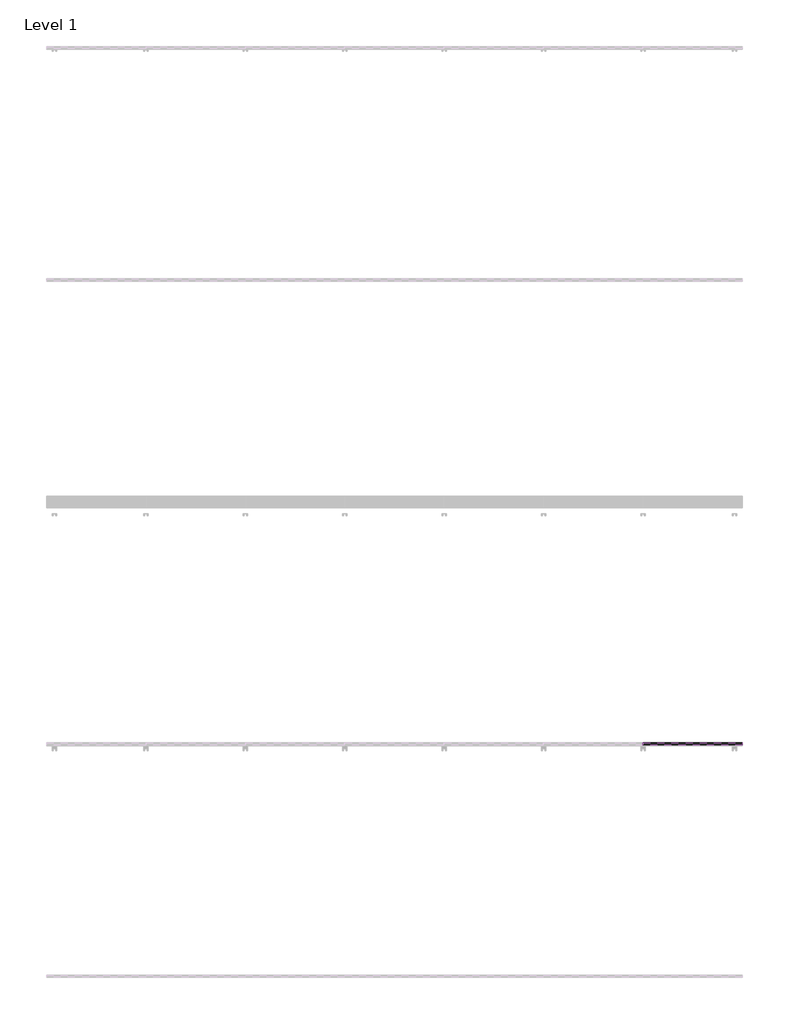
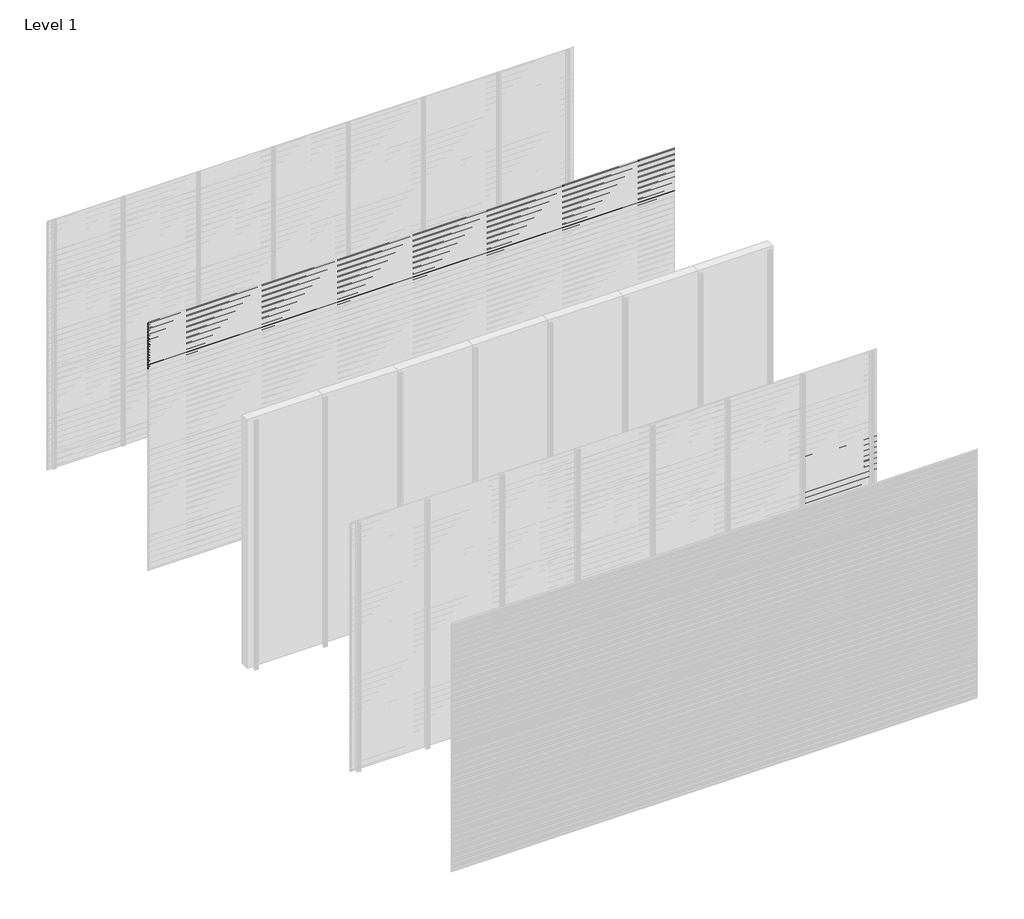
# One storey, part 78 of 96: 77 proxies.
"""IFC4 building model written with IfcOpenShell, lengths in millimetres."""

from ifc_helpers import new_model, si_unit, frame, origin, place, context, project, spatial, polyline, outline, extrude, element, save

model = new_model("IFC4")

# Units and contexts
model_context = context("Model", 3, world=origin())
ifc_project = project(units=[si_unit("LENGTHUNIT", "METRE", prefix="MILLI")], contexts=[model_context])

# Site, building, storey
site = spatial("IfcSite", under=ifc_project)
building = spatial("IfcBuilding", under=site)
storey = spatial("IfcBuildingStorey", under=building, Name="Level 1", Elevation=0.0)

# Proxies
placement = place(None, origin())
element("IfcBuildingElementProxy", 1, Name="Wall Sweeps", at=placement, inside=storey, context=model_context, shape_type="SweptSolid", body=[
    extrude(outline(polyline([(-7977.6, 2971.7655033), (-7977.6, 2957.4779188), (-7982.4114965, 2954.7), (-7982.4114965, 2955.9701706), (-7978.85, 2958.0264016), (-7978.85, 2971.0437382), (-7998.0, 2982.1000799), (-7998.0, 2997.0), (-7996.75, 2997.0), (-7996.75, 2982.8217609), (-7977.6, 2971.7655033)])), frame((0.0, 0.0, 0.0), z_axis=(1.0, 0.0, 0.0), x_axis=(0.0, 1.0, 0.0)), (0.0, 0.0, 1.0), 6000.0),
])
element("IfcBuildingElementProxy", 2, Name="Wall Sweeps", at=placement, inside=storey, context=model_context, shape_type="SweptSolid", body=[
    extrude(outline(polyline([(-7977.6, 2938.4655033), (-7977.6, 2924.1779188), (-7982.4114965, 2921.4), (-7982.4114965, 2922.6701706), (-7978.85, 2924.7264016), (-7978.85, 2937.7437382), (-7998.0, 2948.8000799), (-7998.0, 2963.7), (-7996.75, 2963.7), (-7996.75, 2949.5217609), (-7977.6, 2938.4655033)])), frame((0.0, 0.0, 0.0), z_axis=(1.0, 0.0, 0.0), x_axis=(0.0, 1.0, 0.0)), (0.0, 0.0, 1.0), 6000.0),
])
element("IfcBuildingElementProxy", 3, Name="Wall Sweeps", at=placement, inside=storey, context=model_context, shape_type="SweptSolid", body=[
    extrude(outline(polyline([(-7977.6, 2905.1655033), (-7977.6, 2890.8779188), (-7982.4114965, 2888.1), (-7982.4114965, 2889.3701706), (-7978.85, 2891.4264016), (-7978.85, 2904.4437382), (-7998.0, 2915.5000799), (-7998.0, 2930.4), (-7996.75, 2930.4), (-7996.75, 2916.2217609), (-7977.6, 2905.1655033)])), frame((0.0, 0.0, 0.0), z_axis=(1.0, 0.0, 0.0), x_axis=(0.0, 1.0, 0.0)), (0.0, 0.0, 1.0), 6000.0),
])
element("IfcBuildingElementProxy", 4, Name="Wall Sweeps", at=placement, inside=storey, context=model_context, shape_type="SweptSolid", body=[
    extrude(outline(polyline([(-7977.6, 2871.8655033), (-7977.6, 2857.5779188), (-7982.4114965, 2854.8), (-7982.4114965, 2856.0701706), (-7978.85, 2858.1264016), (-7978.85, 2871.1437382), (-7998.0, 2882.2000799), (-7998.0, 2897.1), (-7996.75, 2897.1), (-7996.75, 2882.9217609), (-7977.6, 2871.8655033)])), frame((0.0, 0.0, 0.0), z_axis=(1.0, 0.0, 0.0), x_axis=(0.0, 1.0, 0.0)), (0.0, 0.0, 1.0), 6000.0),
])
element("IfcBuildingElementProxy", 5, Name="Wall Sweeps", at=placement, inside=storey, context=model_context, shape_type="SweptSolid", body=[
    extrude(outline(polyline([(-7977.6, 2838.5655033), (-7977.6, 2824.2779188), (-7982.4114965, 2821.5), (-7982.4114965, 2822.7701706), (-7978.85, 2824.8264016), (-7978.85, 2837.8437382), (-7998.0, 2848.9000799), (-7998.0, 2863.8), (-7996.75, 2863.8), (-7996.75, 2849.6217609), (-7977.6, 2838.5655033)])), frame((0.0, 0.0, 0.0), z_axis=(1.0, 0.0, 0.0), x_axis=(0.0, 1.0, 0.0)), (0.0, 0.0, 1.0), 6000.0),
])
element("IfcBuildingElementProxy", 6, Name="Wall Sweeps", at=placement, inside=storey, context=model_context, shape_type="SweptSolid", body=[
    extrude(outline(polyline([(-7977.6, 2805.2655033), (-7977.6, 2790.9779188), (-7982.4114965, 2788.2), (-7982.4114965, 2789.4701706), (-7978.85, 2791.5264016), (-7978.85, 2804.5437382), (-7998.0, 2815.6000799), (-7998.0, 2830.5), (-7996.75, 2830.5), (-7996.75, 2816.3217609), (-7977.6, 2805.2655033)])), frame((0.0, 0.0, 0.0), z_axis=(1.0, 0.0, 0.0), x_axis=(0.0, 1.0, 0.0)), (0.0, 0.0, 1.0), 6000.0),
])
element("IfcBuildingElementProxy", 7, Name="Wall Sweeps", at=placement, inside=storey, context=model_context, shape_type="SweptSolid", body=[
    extrude(outline(polyline([(-7977.6, 2771.9655033), (-7977.6, 2757.6779188), (-7982.4114965, 2754.9), (-7982.4114965, 2756.1701706), (-7978.85, 2758.2264016), (-7978.85, 2771.2437382), (-7998.0, 2782.3000799), (-7998.0, 2797.2), (-7996.75, 2797.2), (-7996.75, 2783.0217609), (-7977.6, 2771.9655033)])), frame((0.0, 0.0, 0.0), z_axis=(1.0, 0.0, 0.0), x_axis=(0.0, 1.0, 0.0)), (0.0, 0.0, 1.0), 6000.0),
])
element("IfcBuildingElementProxy", 8, Name="Wall Sweeps", at=placement, inside=storey, context=model_context, shape_type="SweptSolid", body=[
    extrude(outline(polyline([(-7977.6, 2738.6655033), (-7977.6, 2724.3779188), (-7982.4114965, 2721.6), (-7982.4114965, 2722.8701706), (-7978.85, 2724.9264016), (-7978.85, 2737.9437382), (-7998.0, 2749.0000799), (-7998.0, 2763.9), (-7996.75, 2763.9), (-7996.75, 2749.7217609), (-7977.6, 2738.6655033)])), frame((0.0, 0.0, 0.0), z_axis=(1.0, 0.0, 0.0), x_axis=(0.0, 1.0, 0.0)), (0.0, 0.0, 1.0), 6000.0),
])
element("IfcBuildingElementProxy", 9, Name="Wall Sweeps", at=placement, inside=storey, context=model_context, shape_type="SweptSolid", body=[
    extrude(outline(polyline([(-7977.6, 2705.3655033), (-7977.6, 2691.0779188), (-7982.4114965, 2688.3), (-7982.4114965, 2689.5701706), (-7978.85, 2691.6264016), (-7978.85, 2704.6437382), (-7998.0, 2715.7000799), (-7998.0, 2730.6), (-7996.75, 2730.6), (-7996.75, 2716.4217609), (-7977.6, 2705.3655033)])), frame((0.0, 0.0, 0.0), z_axis=(1.0, 0.0, 0.0), x_axis=(0.0, 1.0, 0.0)), (0.0, 0.0, 1.0), 6000.0),
])
element("IfcBuildingElementProxy", 10, Name="Wall Sweeps", at=placement, inside=storey, context=model_context, shape_type="SweptSolid", body=[
    extrude(outline(polyline([(-7977.6, 2672.0655033), (-7977.6, 2657.7779188), (-7982.4114965, 2655.0), (-7982.4114965, 2656.2701706), (-7978.85, 2658.3264016), (-7978.85, 2671.3437382), (-7998.0, 2682.4000799), (-7998.0, 2697.3), (-7996.75, 2697.3), (-7996.75, 2683.1217609), (-7977.6, 2672.0655033)])), frame((0.0, 0.0, 0.0), z_axis=(1.0, 0.0, 0.0), x_axis=(0.0, 1.0, 0.0)), (0.0, 0.0, 1.0), 6000.0),
])
element("IfcBuildingElementProxy", 11, Name="Wall Sweeps", at=placement, inside=storey, context=model_context, shape_type="SweptSolid", body=[
    extrude(outline(polyline([(-7977.6, 2638.7655033), (-7977.6, 2624.4779188), (-7982.4114965, 2621.7), (-7982.4114965, 2622.9701706), (-7978.85, 2625.0264016), (-7978.85, 2638.0437382), (-7998.0, 2649.1000799), (-7998.0, 2664.0), (-7996.75, 2664.0), (-7996.75, 2649.8217609), (-7977.6, 2638.7655033)])), frame((0.0, 0.0, 0.0), z_axis=(1.0, 0.0, 0.0), x_axis=(0.0, 1.0, 0.0)), (0.0, 0.0, 1.0), 6000.0),
])
element("IfcBuildingElementProxy", 12, Name="Wall Sweeps", at=placement, inside=storey, context=model_context, shape_type="SweptSolid", body=[
    extrude(outline(polyline([(-7977.6, 2605.4655033), (-7977.6, 2591.1779188), (-7982.4114965, 2588.4), (-7982.4114965, 2589.6701706), (-7978.85, 2591.7264016), (-7978.85, 2604.7437382), (-7998.0, 2615.8000799), (-7998.0, 2630.7), (-7996.75, 2630.7), (-7996.75, 2616.5217609), (-7977.6, 2605.4655033)])), frame((0.0, 0.0, 0.0), z_axis=(1.0, 0.0, 0.0), x_axis=(0.0, 1.0, 0.0)), (0.0, 0.0, 1.0), 6000.0),
])
element("IfcBuildingElementProxy", 13, Name="Wall Sweeps", at=placement, inside=storey, context=model_context, shape_type="SweptSolid", body=[
    extrude(outline(polyline([(-7977.6, 2572.1655033), (-7977.6, 2557.8779188), (-7982.4114965, 2555.1), (-7982.4114965, 2556.3701706), (-7978.85, 2558.4264016), (-7978.85, 2571.4437382), (-7998.0, 2582.5000799), (-7998.0, 2597.4), (-7996.75, 2597.4), (-7996.75, 2583.2217609), (-7977.6, 2572.1655033)])), frame((0.0, 0.0, 0.0), z_axis=(1.0, 0.0, 0.0), x_axis=(0.0, 1.0, 0.0)), (0.0, 0.0, 1.0), 6000.0),
])
element("IfcBuildingElementProxy", 14, Name="Wall Sweeps", at=placement, inside=storey, context=model_context, shape_type="SweptSolid", body=[
    extrude(outline(polyline([(-7977.6, 2538.8655033), (-7977.6, 2524.5779188), (-7982.4114965, 2521.8), (-7982.4114965, 2523.0701706), (-7978.85, 2525.1264016), (-7978.85, 2538.1437382), (-7998.0, 2549.2000799), (-7998.0, 2564.1), (-7996.75, 2564.1), (-7996.75, 2549.9217609), (-7977.6, 2538.8655033)])), frame((0.0, 0.0, 0.0), z_axis=(1.0, 0.0, 0.0), x_axis=(0.0, 1.0, 0.0)), (0.0, 0.0, 1.0), 6000.0),
])
element("IfcBuildingElementProxy", 15, Name="Wall Sweeps", at=placement, inside=storey, context=model_context, shape_type="SweptSolid", body=[
    extrude(outline(polyline([(-7977.6, 2505.5655033), (-7977.6, 2491.2779188), (-7982.4114965, 2488.5), (-7982.4114965, 2489.7701706), (-7978.85, 2491.8264016), (-7978.85, 2504.8437382), (-7998.0, 2515.9000799), (-7998.0, 2530.8), (-7996.75, 2530.8), (-7996.75, 2516.6217609), (-7977.6, 2505.5655033)])), frame((0.0, 0.0, 0.0), z_axis=(1.0, 0.0, 0.0), x_axis=(0.0, 1.0, 0.0)), (0.0, 0.0, 1.0), 6000.0),
])
element("IfcBuildingElementProxy", 16, Name="Wall Sweeps", at=placement, inside=storey, context=model_context, shape_type="SweptSolid", body=[
    extrude(outline(polyline([(-7977.6, 2472.2655033), (-7977.6, 2457.9779188), (-7982.4114965, 2455.2), (-7982.4114965, 2456.4701706), (-7978.85, 2458.5264016), (-7978.85, 2471.5437382), (-7998.0, 2482.6000799), (-7998.0, 2497.5), (-7996.75, 2497.5), (-7996.75, 2483.3217609), (-7977.6, 2472.2655033)])), frame((0.0, 0.0, 0.0), z_axis=(1.0, 0.0, 0.0), x_axis=(0.0, 1.0, 0.0)), (0.0, 0.0, 1.0), 6000.0),
])
element("IfcBuildingElementProxy", 17, Name="Wall Sweeps", at=placement, inside=storey, context=model_context, shape_type="SweptSolid", body=[
    extrude(outline(polyline([(-7977.6, 2438.9655033), (-7977.6, 2424.6779188), (-7982.4114965, 2421.9), (-7982.4114965, 2423.1701706), (-7978.85, 2425.2264016), (-7978.85, 2438.2437382), (-7998.0, 2449.3000799), (-7998.0, 2464.2), (-7996.75, 2464.2), (-7996.75, 2450.0217609), (-7977.6, 2438.9655033)])), frame((0.0, 0.0, 0.0), z_axis=(1.0, 0.0, 0.0), x_axis=(0.0, 1.0, 0.0)), (0.0, 0.0, 1.0), 6000.0),
])
element("IfcBuildingElementProxy", 18, Name="Wall Sweeps", at=placement, inside=storey, context=model_context, shape_type="SweptSolid", body=[
    extrude(outline(polyline([(-11977.6, 1972.7655033), (-11977.6, 1958.4779188), (-11982.4114965, 1955.7), (-11982.4114965, 1956.9701706), (-11978.85, 1959.0264016), (-11978.85, 1972.0437382), (-11998.0, 1983.1000799), (-11998.0, 1998.0), (-11996.75, 1998.0), (-11996.75, 1983.8217609), (-11977.6, 1972.7655033)])), frame((5142.8571429, 0.0, 0.0), z_axis=(1.0, 0.0, 0.0), x_axis=(0.0, 1.0, 0.0)), (0.0, 0.0, 1.0), 857.1428571),
])
element("IfcBuildingElementProxy", 19, Name="Wall Sweeps", at=placement, inside=storey, context=model_context, shape_type="SweptSolid", body=[
    extrude(outline(polyline([(-11977.6, 1939.4655033), (-11977.6, 1925.1779188), (-11982.4114965, 1922.4), (-11982.4114965, 1923.6701706), (-11978.85, 1925.7264016), (-11978.85, 1938.7437382), (-11998.0, 1949.8000799), (-11998.0, 1964.7), (-11996.75, 1964.7), (-11996.75, 1950.5217609), (-11977.6, 1939.4655033)])), frame((5142.8571429, 0.0, 0.0), z_axis=(1.0, 0.0, 0.0), x_axis=(0.0, 1.0, 0.0)), (0.0, 0.0, 1.0), 857.1428571),
])
element("IfcBuildingElementProxy", 20, Name="Wall Sweeps", at=placement, inside=storey, context=model_context, shape_type="SweptSolid", body=[
    extrude(outline(polyline([(-11977.6, 1906.1655033), (-11977.6, 1891.8779188), (-11982.4114965, 1889.1), (-11982.4114965, 1890.3701706), (-11978.85, 1892.4264016), (-11978.85, 1905.4437382), (-11998.0, 1916.5000799), (-11998.0, 1931.4), (-11996.75, 1931.4), (-11996.75, 1917.2217609), (-11977.6, 1906.1655033)])), frame((5142.8571429, 0.0, 0.0), z_axis=(1.0, 0.0, 0.0), x_axis=(0.0, 1.0, 0.0)), (0.0, 0.0, 1.0), 857.1428571),
])
element("IfcBuildingElementProxy", 21, Name="Wall Sweeps", at=placement, inside=storey, context=model_context, shape_type="SweptSolid", body=[
    extrude(outline(polyline([(-11977.6, 1872.8655033), (-11977.6, 1858.5779188), (-11982.4114965, 1855.8), (-11982.4114965, 1857.0701706), (-11978.85, 1859.1264016), (-11978.85, 1872.1437382), (-11998.0, 1883.2000799), (-11998.0, 1898.1), (-11996.75, 1898.1), (-11996.75, 1883.9217609), (-11977.6, 1872.8655033)])), frame((5142.8571429, 0.0, 0.0), z_axis=(1.0, 0.0, 0.0), x_axis=(0.0, 1.0, 0.0)), (0.0, 0.0, 1.0), 857.1428571),
])
element("IfcBuildingElementProxy", 22, Name="Wall Sweeps", at=placement, inside=storey, context=model_context, shape_type="SweptSolid", body=[
    extrude(outline(polyline([(-11977.6, 1839.5655033), (-11977.6, 1825.2779188), (-11982.4114965, 1822.5), (-11982.4114965, 1823.7701706), (-11978.85, 1825.8264016), (-11978.85, 1838.8437382), (-11998.0, 1849.9000799), (-11998.0, 1864.8), (-11996.75, 1864.8), (-11996.75, 1850.6217609), (-11977.6, 1839.5655033)])), frame((5142.8571429, 0.0, 0.0), z_axis=(1.0, 0.0, 0.0), x_axis=(0.0, 1.0, 0.0)), (0.0, 0.0, 1.0), 857.1428571),
])
element("IfcBuildingElementProxy", 23, Name="Wall Sweeps", at=placement, inside=storey, context=model_context, shape_type="SweptSolid", body=[
    extrude(outline(polyline([(-11977.6, 1806.2655033), (-11977.6, 1791.9779188), (-11982.4114965, 1789.2), (-11982.4114965, 1790.4701706), (-11978.85, 1792.5264016), (-11978.85, 1805.5437382), (-11998.0, 1816.6000799), (-11998.0, 1831.5), (-11996.75, 1831.5), (-11996.75, 1817.3217609), (-11977.6, 1806.2655033)])), frame((5142.8571429, 0.0, 0.0), z_axis=(1.0, 0.0, 0.0), x_axis=(0.0, 1.0, 0.0)), (0.0, 0.0, 1.0), 857.1428571),
])
element("IfcBuildingElementProxy", 24, Name="Wall Sweeps", at=placement, inside=storey, context=model_context, shape_type="SweptSolid", body=[
    extrude(outline(polyline([(-11977.6, 1772.9655033), (-11977.6, 1758.6779188), (-11982.4114965, 1755.9), (-11982.4114965, 1757.1701706), (-11978.85, 1759.2264016), (-11978.85, 1772.2437382), (-11998.0, 1783.3000799), (-11998.0, 1798.2), (-11996.75, 1798.2), (-11996.75, 1784.0217609), (-11977.6, 1772.9655033)])), frame((5142.8571429, 0.0, 0.0), z_axis=(1.0, 0.0, 0.0), x_axis=(0.0, 1.0, 0.0)), (0.0, 0.0, 1.0), 857.1428571),
])
element("IfcBuildingElementProxy", 25, Name="Wall Sweeps", at=placement, inside=storey, context=model_context, shape_type="SweptSolid", body=[
    extrude(outline(polyline([(-11977.6, 1739.6655033), (-11977.6, 1725.3779188), (-11982.4114965, 1722.6), (-11982.4114965, 1723.8701706), (-11978.85, 1725.9264016), (-11978.85, 1738.9437382), (-11998.0, 1750.0000799), (-11998.0, 1764.9), (-11996.75, 1764.9), (-11996.75, 1750.7217609), (-11977.6, 1739.6655033)])), frame((5142.8571429, 0.0, 0.0), z_axis=(1.0, 0.0, 0.0), x_axis=(0.0, 1.0, 0.0)), (0.0, 0.0, 1.0), 857.1428571),
])
element("IfcBuildingElementProxy", 26, Name="Wall Sweeps", at=placement, inside=storey, context=model_context, shape_type="SweptSolid", body=[
    extrude(outline(polyline([(-11977.6, 1706.3655033), (-11977.6, 1692.0779188), (-11982.4114965, 1689.3), (-11982.4114965, 1690.5701706), (-11978.85, 1692.6264016), (-11978.85, 1705.6437382), (-11998.0, 1716.7000799), (-11998.0, 1731.6), (-11996.75, 1731.6), (-11996.75, 1717.4217609), (-11977.6, 1706.3655033)])), frame((5142.8571429, 0.0, 0.0), z_axis=(1.0, 0.0, 0.0), x_axis=(0.0, 1.0, 0.0)), (0.0, 0.0, 1.0), 857.1428571),
])
element("IfcBuildingElementProxy", 27, Name="Wall Sweeps", at=placement, inside=storey, context=model_context, shape_type="SweptSolid", body=[
    extrude(outline(polyline([(-11977.6, 1673.0655033), (-11977.6, 1658.7779188), (-11982.4114965, 1656.0), (-11982.4114965, 1657.2701706), (-11978.85, 1659.3264016), (-11978.85, 1672.3437382), (-11998.0, 1683.4000799), (-11998.0, 1698.3), (-11996.75, 1698.3), (-11996.75, 1684.1217609), (-11977.6, 1673.0655033)])), frame((5142.8571429, 0.0, 0.0), z_axis=(1.0, 0.0, 0.0), x_axis=(0.0, 1.0, 0.0)), (0.0, 0.0, 1.0), 857.1428571),
])
element("IfcBuildingElementProxy", 28, Name="Wall Sweeps", at=placement, inside=storey, context=model_context, shape_type="SweptSolid", body=[
    extrude(outline(polyline([(-11977.6, 1639.7655033), (-11977.6, 1625.4779188), (-11982.4114965, 1622.7), (-11982.4114965, 1623.9701706), (-11978.85, 1626.0264016), (-11978.85, 1639.0437382), (-11998.0, 1650.1000799), (-11998.0, 1665.0), (-11996.75, 1665.0), (-11996.75, 1650.8217609), (-11977.6, 1639.7655033)])), frame((5142.8571429, 0.0, 0.0), z_axis=(1.0, 0.0, 0.0), x_axis=(0.0, 1.0, 0.0)), (0.0, 0.0, 1.0), 857.1428571),
])
element("IfcBuildingElementProxy", 29, Name="Wall Sweeps", at=placement, inside=storey, context=model_context, shape_type="SweptSolid", body=[
    extrude(outline(polyline([(-11977.6, 1606.4655033), (-11977.6, 1592.1779188), (-11982.4114965, 1589.4), (-11982.4114965, 1590.6701706), (-11978.85, 1592.7264016), (-11978.85, 1605.7437382), (-11998.0, 1616.8000799), (-11998.0, 1631.7), (-11996.75, 1631.7), (-11996.75, 1617.5217609), (-11977.6, 1606.4655033)])), frame((5142.8571429, 0.0, 0.0), z_axis=(1.0, 0.0, 0.0), x_axis=(0.0, 1.0, 0.0)), (0.0, 0.0, 1.0), 857.1428571),
])
element("IfcBuildingElementProxy", 30, Name="Wall Sweeps", at=placement, inside=storey, context=model_context, shape_type="SweptSolid", body=[
    extrude(outline(polyline([(-11977.6, 1573.1655033), (-11977.6, 1558.8779188), (-11982.4114965, 1556.1), (-11982.4114965, 1557.3701706), (-11978.85, 1559.4264016), (-11978.85, 1572.4437382), (-11998.0, 1583.5000799), (-11998.0, 1598.4), (-11996.75, 1598.4), (-11996.75, 1584.2217609), (-11977.6, 1573.1655033)])), frame((5142.8571429, 0.0, 0.0), z_axis=(1.0, 0.0, 0.0), x_axis=(0.0, 1.0, 0.0)), (0.0, 0.0, 1.0), 857.1428571),
])
element("IfcBuildingElementProxy", 31, Name="Wall Sweeps", at=placement, inside=storey, context=model_context, shape_type="SweptSolid", body=[
    extrude(outline(polyline([(-11977.6, 1539.8655033), (-11977.6, 1525.5779188), (-11982.4114965, 1522.8), (-11982.4114965, 1524.0701706), (-11978.85, 1526.1264016), (-11978.85, 1539.1437382), (-11998.0, 1550.2000799), (-11998.0, 1565.1), (-11996.75, 1565.1), (-11996.75, 1550.9217609), (-11977.6, 1539.8655033)])), frame((5142.8571429, 0.0, 0.0), z_axis=(1.0, 0.0, 0.0), x_axis=(0.0, 1.0, 0.0)), (0.0, 0.0, 1.0), 857.1428571),
])
element("IfcBuildingElementProxy", 32, Name="Wall Sweeps", at=placement, inside=storey, context=model_context, shape_type="SweptSolid", body=[
    extrude(outline(polyline([(-11977.6, 1506.5655033), (-11977.6, 1492.2779188), (-11982.4114965, 1489.5), (-11982.4114965, 1490.7701706), (-11978.85, 1492.8264016), (-11978.85, 1505.8437382), (-11998.0, 1516.9000799), (-11998.0, 1531.8), (-11996.75, 1531.8), (-11996.75, 1517.6217609), (-11977.6, 1506.5655033)])), frame((5142.8571429, 0.0, 0.0), z_axis=(1.0, 0.0, 0.0), x_axis=(0.0, 1.0, 0.0)), (0.0, 0.0, 1.0), 857.1428571),
])
element("IfcBuildingElementProxy", 33, Name="Wall Sweeps", at=placement, inside=storey, context=model_context, shape_type="SweptSolid", body=[
    extrude(outline(polyline([(-11977.6, 1473.2655033), (-11977.6, 1458.9779188), (-11982.4114965, 1456.2), (-11982.4114965, 1457.4701706), (-11978.85, 1459.5264016), (-11978.85, 1472.5437382), (-11998.0, 1483.6000799), (-11998.0, 1498.5), (-11996.75, 1498.5), (-11996.75, 1484.3217609), (-11977.6, 1473.2655033)])), frame((5142.8571429, 0.0, 0.0), z_axis=(1.0, 0.0, 0.0), x_axis=(0.0, 1.0, 0.0)), (0.0, 0.0, 1.0), 857.1428571),
])
element("IfcBuildingElementProxy", 34, Name="Wall Sweeps", at=placement, inside=storey, context=model_context, shape_type="SweptSolid", body=[
    extrude(outline(polyline([(-11977.6, 1439.9655033), (-11977.6, 1425.6779188), (-11982.4114965, 1422.9), (-11982.4114965, 1424.1701706), (-11978.85, 1426.2264016), (-11978.85, 1439.2437382), (-11998.0, 1450.3000799), (-11998.0, 1465.2), (-11996.75, 1465.2), (-11996.75, 1451.0217609), (-11977.6, 1439.9655033)])), frame((5142.8571429, 0.0, 0.0), z_axis=(1.0, 0.0, 0.0), x_axis=(0.0, 1.0, 0.0)), (0.0, 0.0, 1.0), 857.1428571),
])
element("IfcBuildingElementProxy", 35, Name="Wall Sweeps", at=placement, inside=storey, context=model_context, shape_type="SweptSolid", body=[
    extrude(outline(polyline([(-11977.6, 1406.6655033), (-11977.6, 1392.3779188), (-11982.4114965, 1389.6), (-11982.4114965, 1390.8701706), (-11978.85, 1392.9264016), (-11978.85, 1405.9437382), (-11998.0, 1417.0000799), (-11998.0, 1431.9), (-11996.75, 1431.9), (-11996.75, 1417.7217609), (-11977.6, 1406.6655033)])), frame((5142.8571429, 0.0, 0.0), z_axis=(1.0, 0.0, 0.0), x_axis=(0.0, 1.0, 0.0)), (0.0, 0.0, 1.0), 857.1428571),
])
element("IfcBuildingElementProxy", 36, Name="Wall Sweeps", at=placement, inside=storey, context=model_context, shape_type="SweptSolid", body=[
    extrude(outline(polyline([(-11977.6, 1373.3655033), (-11977.6, 1359.0779188), (-11982.4114965, 1356.3), (-11982.4114965, 1357.5701706), (-11978.85, 1359.6264016), (-11978.85, 1372.6437382), (-11998.0, 1383.7000799), (-11998.0, 1398.6), (-11996.75, 1398.6), (-11996.75, 1384.4217609), (-11977.6, 1373.3655033)])), frame((5142.8571429, 0.0, 0.0), z_axis=(1.0, 0.0, 0.0), x_axis=(0.0, 1.0, 0.0)), (0.0, 0.0, 1.0), 857.1428571),
])
element("IfcBuildingElementProxy", 37, Name="Wall Sweeps", at=placement, inside=storey, context=model_context, shape_type="SweptSolid", body=[
    extrude(outline(polyline([(-11977.6, 1340.0655033), (-11977.6, 1325.7779188), (-11982.4114965, 1323.0), (-11982.4114965, 1324.2701706), (-11978.85, 1326.3264016), (-11978.85, 1339.3437382), (-11998.0, 1350.4000799), (-11998.0, 1365.3), (-11996.75, 1365.3), (-11996.75, 1351.1217609), (-11977.6, 1340.0655033)])), frame((5142.8571429, 0.0, 0.0), z_axis=(1.0, 0.0, 0.0), x_axis=(0.0, 1.0, 0.0)), (0.0, 0.0, 1.0), 857.1428571),
])
element("IfcBuildingElementProxy", 38, Name="Wall Sweeps", at=placement, inside=storey, context=model_context, shape_type="SweptSolid", body=[
    extrude(outline(polyline([(-11977.6, 1306.7655033), (-11977.6, 1292.4779188), (-11982.4114965, 1289.7), (-11982.4114965, 1290.9701706), (-11978.85, 1293.0264016), (-11978.85, 1306.0437382), (-11998.0, 1317.1000799), (-11998.0, 1332.0), (-11996.75, 1332.0), (-11996.75, 1317.8217609), (-11977.6, 1306.7655033)])), frame((5142.8571429, 0.0, 0.0), z_axis=(1.0, 0.0, 0.0), x_axis=(0.0, 1.0, 0.0)), (0.0, 0.0, 1.0), 857.1428571),
])
element("IfcBuildingElementProxy", 39, Name="Wall Sweeps", at=placement, inside=storey, context=model_context, shape_type="SweptSolid", body=[
    extrude(outline(polyline([(-11977.6, 1273.4655033), (-11977.6, 1259.1779188), (-11982.4114965, 1256.4), (-11982.4114965, 1257.6701706), (-11978.85, 1259.7264016), (-11978.85, 1272.7437382), (-11998.0, 1283.8000799), (-11998.0, 1298.7), (-11996.75, 1298.7), (-11996.75, 1284.5217609), (-11977.6, 1273.4655033)])), frame((5142.8571429, 0.0, 0.0), z_axis=(1.0, 0.0, 0.0), x_axis=(0.0, 1.0, 0.0)), (0.0, 0.0, 1.0), 857.1428571),
])
element("IfcBuildingElementProxy", 40, Name="Wall Sweeps", at=placement, inside=storey, context=model_context, shape_type="SweptSolid", body=[
    extrude(outline(polyline([(-11977.6, 1240.1655033), (-11977.6, 1225.8779188), (-11982.4114965, 1223.1), (-11982.4114965, 1224.3701706), (-11978.85, 1226.4264016), (-11978.85, 1239.4437382), (-11998.0, 1250.5000799), (-11998.0, 1265.4), (-11996.75, 1265.4), (-11996.75, 1251.2217609), (-11977.6, 1240.1655033)])), frame((5142.8571429, 0.0, 0.0), z_axis=(1.0, 0.0, 0.0), x_axis=(0.0, 1.0, 0.0)), (0.0, 0.0, 1.0), 857.1428571),
])
element("IfcBuildingElementProxy", 41, Name="Wall Sweeps", at=placement, inside=storey, context=model_context, shape_type="SweptSolid", body=[
    extrude(outline(polyline([(-11977.6, 1206.8655033), (-11977.6, 1192.5779188), (-11982.4114965, 1189.8), (-11982.4114965, 1191.0701706), (-11978.85, 1193.1264016), (-11978.85, 1206.1437382), (-11998.0, 1217.2000799), (-11998.0, 1232.1), (-11996.75, 1232.1), (-11996.75, 1217.9217609), (-11977.6, 1206.8655033)])), frame((5142.8571429, 0.0, 0.0), z_axis=(1.0, 0.0, 0.0), x_axis=(0.0, 1.0, 0.0)), (0.0, 0.0, 1.0), 857.1428571),
])
element("IfcBuildingElementProxy", 42, Name="Wall Sweeps", at=placement, inside=storey, context=model_context, shape_type="SweptSolid", body=[
    extrude(outline(polyline([(-11977.6, 1173.5655033), (-11977.6, 1159.2779188), (-11982.4114965, 1156.5), (-11982.4114965, 1157.7701706), (-11978.85, 1159.8264016), (-11978.85, 1172.8437382), (-11998.0, 1183.9000799), (-11998.0, 1198.8), (-11996.75, 1198.8), (-11996.75, 1184.6217609), (-11977.6, 1173.5655033)])), frame((5142.8571429, 0.0, 0.0), z_axis=(1.0, 0.0, 0.0), x_axis=(0.0, 1.0, 0.0)), (0.0, 0.0, 1.0), 857.1428571),
])
element("IfcBuildingElementProxy", 43, Name="Wall Sweeps", at=placement, inside=storey, context=model_context, shape_type="SweptSolid", body=[
    extrude(outline(polyline([(-11977.6, 1140.2655033), (-11977.6, 1125.9779188), (-11982.4114965, 1123.2), (-11982.4114965, 1124.4701706), (-11978.85, 1126.5264016), (-11978.85, 1139.5437382), (-11998.0, 1150.6000799), (-11998.0, 1165.5), (-11996.75, 1165.5), (-11996.75, 1151.3217609), (-11977.6, 1140.2655033)])), frame((5142.8571429, 0.0, 0.0), z_axis=(1.0, 0.0, 0.0), x_axis=(0.0, 1.0, 0.0)), (0.0, 0.0, 1.0), 857.1428571),
])
element("IfcBuildingElementProxy", 44, Name="Wall Sweeps", at=placement, inside=storey, context=model_context, shape_type="SweptSolid", body=[
    extrude(outline(polyline([(-11977.6, 1106.9655033), (-11977.6, 1092.6779188), (-11982.4114965, 1089.9), (-11982.4114965, 1091.1701706), (-11978.85, 1093.2264016), (-11978.85, 1106.2437382), (-11998.0, 1117.3000799), (-11998.0, 1132.2), (-11996.75, 1132.2), (-11996.75, 1118.0217609), (-11977.6, 1106.9655033)])), frame((5142.8571429, 0.0, 0.0), z_axis=(1.0, 0.0, 0.0), x_axis=(0.0, 1.0, 0.0)), (0.0, 0.0, 1.0), 857.1428571),
])
element("IfcBuildingElementProxy", 45, Name="Wall Sweeps", at=placement, inside=storey, context=model_context, shape_type="SweptSolid", body=[
    extrude(outline(polyline([(-11977.6, 1073.6655033), (-11977.6, 1059.3779188), (-11982.4114965, 1056.6), (-11982.4114965, 1057.8701706), (-11978.85, 1059.9264016), (-11978.85, 1072.9437382), (-11998.0, 1084.0000799), (-11998.0, 1098.9), (-11996.75, 1098.9), (-11996.75, 1084.7217609), (-11977.6, 1073.6655033)])), frame((5142.8571429, 0.0, 0.0), z_axis=(1.0, 0.0, 0.0), x_axis=(0.0, 1.0, 0.0)), (0.0, 0.0, 1.0), 857.1428571),
])
element("IfcBuildingElementProxy", 46, Name="Wall Sweeps", at=placement, inside=storey, context=model_context, shape_type="SweptSolid", body=[
    extrude(outline(polyline([(-11977.6, 1040.3655033), (-11977.6, 1026.0779188), (-11982.4114965, 1023.3), (-11982.4114965, 1024.5701706), (-11978.85, 1026.6264016), (-11978.85, 1039.6437382), (-11998.0, 1050.7000799), (-11998.0, 1065.6), (-11996.75, 1065.6), (-11996.75, 1051.4217609), (-11977.6, 1040.3655033)])), frame((5142.8571429, 0.0, 0.0), z_axis=(1.0, 0.0, 0.0), x_axis=(0.0, 1.0, 0.0)), (0.0, 0.0, 1.0), 857.1428571),
])
element("IfcBuildingElementProxy", 47, Name="Wall Sweeps", at=placement, inside=storey, context=model_context, shape_type="SweptSolid", body=[
    extrude(outline(polyline([(-11977.6, 1007.0655033), (-11977.6, 992.7779188), (-11982.4114965, 990.0), (-11982.4114965, 991.2701706), (-11978.85, 993.3264016), (-11978.85, 1006.3437382), (-11998.0, 1017.4000799), (-11998.0, 1032.3), (-11996.75, 1032.3), (-11996.75, 1018.1217609), (-11977.6, 1007.0655033)])), frame((5142.8571429, 0.0, 0.0), z_axis=(1.0, 0.0, 0.0), x_axis=(0.0, 1.0, 0.0)), (0.0, 0.0, 1.0), 857.1428571),
])
element("IfcBuildingElementProxy", 48, Name="Wall Sweeps", at=placement, inside=storey, context=model_context, shape_type="SweptSolid", body=[
    extrude(outline(polyline([(-11977.6, 973.7655033), (-11977.6, 959.4779188), (-11982.4114965, 956.7), (-11982.4114965, 957.9701706), (-11978.85, 960.0264016), (-11978.85, 973.0437382), (-11998.0, 984.1000799), (-11998.0, 999.0), (-11996.75, 999.0), (-11996.75, 984.8217609), (-11977.6, 973.7655033)])), frame((5142.8571429, 0.0, 0.0), z_axis=(1.0, 0.0, 0.0), x_axis=(0.0, 1.0, 0.0)), (0.0, 0.0, 1.0), 857.1428571),
])
element("IfcBuildingElementProxy", 49, Name="Wall Sweeps", at=placement, inside=storey, context=model_context, shape_type="SweptSolid", body=[
    extrude(outline(polyline([(-11977.6, 940.4655033), (-11977.6, 926.1779188), (-11982.4114965, 923.4), (-11982.4114965, 924.6701706), (-11978.85, 926.7264016), (-11978.85, 939.7437382), (-11998.0, 950.8000799), (-11998.0, 965.7), (-11996.75, 965.7), (-11996.75, 951.5217609), (-11977.6, 940.4655033)])), frame((5142.8571429, 0.0, 0.0), z_axis=(1.0, 0.0, 0.0), x_axis=(0.0, 1.0, 0.0)), (0.0, 0.0, 1.0), 857.1428571),
])
element("IfcBuildingElementProxy", 50, Name="Wall Sweeps", at=placement, inside=storey, context=model_context, shape_type="SweptSolid", body=[
    extrude(outline(polyline([(-11977.6, 907.1655033), (-11977.6, 892.8779188), (-11982.4114965, 890.1), (-11982.4114965, 891.3701706), (-11978.85, 893.4264016), (-11978.85, 906.4437382), (-11998.0, 917.5000799), (-11998.0, 932.4), (-11996.75, 932.4), (-11996.75, 918.2217609), (-11977.6, 907.1655033)])), frame((5142.8571429, 0.0, 0.0), z_axis=(1.0, 0.0, 0.0), x_axis=(0.0, 1.0, 0.0)), (0.0, 0.0, 1.0), 857.1428571),
])
element("IfcBuildingElementProxy", 51, Name="Wall Sweeps", at=placement, inside=storey, context=model_context, shape_type="SweptSolid", body=[
    extrude(outline(polyline([(-11977.6, 873.8655033), (-11977.6, 859.5779188), (-11982.4114965, 856.8), (-11982.4114965, 858.0701706), (-11978.85, 860.1264016), (-11978.85, 873.1437382), (-11998.0, 884.2000799), (-11998.0, 899.1), (-11996.75, 899.1), (-11996.75, 884.9217609), (-11977.6, 873.8655033)])), frame((5142.8571429, 0.0, 0.0), z_axis=(1.0, 0.0, 0.0), x_axis=(0.0, 1.0, 0.0)), (0.0, 0.0, 1.0), 857.1428571),
])
element("IfcBuildingElementProxy", 52, Name="Wall Sweeps", at=placement, inside=storey, context=model_context, shape_type="SweptSolid", body=[
    extrude(outline(polyline([(-11977.6, 840.5655033), (-11977.6, 826.2779188), (-11982.4114965, 823.5), (-11982.4114965, 824.7701706), (-11978.85, 826.8264016), (-11978.85, 839.8437382), (-11998.0, 850.9000799), (-11998.0, 865.8), (-11996.75, 865.8), (-11996.75, 851.6217609), (-11977.6, 840.5655033)])), frame((5142.8571429, 0.0, 0.0), z_axis=(1.0, 0.0, 0.0), x_axis=(0.0, 1.0, 0.0)), (0.0, 0.0, 1.0), 857.1428571),
])
element("IfcBuildingElementProxy", 53, Name="Wall Sweeps", at=placement, inside=storey, context=model_context, shape_type="SweptSolid", body=[
    extrude(outline(polyline([(-11977.6, 807.2655033), (-11977.6, 792.9779188), (-11982.4114965, 790.2), (-11982.4114965, 791.4701706), (-11978.85, 793.5264016), (-11978.85, 806.5437382), (-11998.0, 817.6000799), (-11998.0, 832.5), (-11996.75, 832.5), (-11996.75, 818.3217609), (-11977.6, 807.2655033)])), frame((5142.8571429, 0.0, 0.0), z_axis=(1.0, 0.0, 0.0), x_axis=(0.0, 1.0, 0.0)), (0.0, 0.0, 1.0), 857.1428571),
])
element("IfcBuildingElementProxy", 54, Name="Wall Sweeps", at=placement, inside=storey, context=model_context, shape_type="SweptSolid", body=[
    extrude(outline(polyline([(-11977.6, 773.9655033), (-11977.6, 759.6779188), (-11982.4114965, 756.9), (-11982.4114965, 758.1701706), (-11978.85, 760.2264016), (-11978.85, 773.2437382), (-11998.0, 784.3000799), (-11998.0, 799.2), (-11996.75, 799.2), (-11996.75, 785.0217609), (-11977.6, 773.9655033)])), frame((5142.8571429, 0.0, 0.0), z_axis=(1.0, 0.0, 0.0), x_axis=(0.0, 1.0, 0.0)), (0.0, 0.0, 1.0), 857.1428571),
])
element("IfcBuildingElementProxy", 55, Name="Wall Sweeps", at=placement, inside=storey, context=model_context, shape_type="SweptSolid", body=[
    extrude(outline(polyline([(-11977.6, 740.6655033), (-11977.6, 726.3779188), (-11982.4114965, 723.6), (-11982.4114965, 724.8701706), (-11978.85, 726.9264016), (-11978.85, 739.9437382), (-11998.0, 751.0000799), (-11998.0, 765.9), (-11996.75, 765.9), (-11996.75, 751.7217609), (-11977.6, 740.6655033)])), frame((5142.8571429, 0.0, 0.0), z_axis=(1.0, 0.0, 0.0), x_axis=(0.0, 1.0, 0.0)), (0.0, 0.0, 1.0), 857.1428571),
])
element("IfcBuildingElementProxy", 56, Name="Wall Sweeps", at=placement, inside=storey, context=model_context, shape_type="SweptSolid", body=[
    extrude(outline(polyline([(-11977.6, 707.3655033), (-11977.6, 693.0779188), (-11982.4114965, 690.3), (-11982.4114965, 691.5701706), (-11978.85, 693.6264016), (-11978.85, 706.6437382), (-11998.0, 717.7000799), (-11998.0, 732.6), (-11996.75, 732.6), (-11996.75, 718.4217609), (-11977.6, 707.3655033)])), frame((5142.8571429, 0.0, 0.0), z_axis=(1.0, 0.0, 0.0), x_axis=(0.0, 1.0, 0.0)), (0.0, 0.0, 1.0), 857.1428571),
])
element("IfcBuildingElementProxy", 57, Name="Wall Sweeps", at=placement, inside=storey, context=model_context, shape_type="SweptSolid", body=[
    extrude(outline(polyline([(-11977.6, 674.0655033), (-11977.6, 659.7779188), (-11982.4114965, 657.0), (-11982.4114965, 658.2701706), (-11978.85, 660.3264016), (-11978.85, 673.3437382), (-11998.0, 684.4000799), (-11998.0, 699.3), (-11996.75, 699.3), (-11996.75, 685.1217609), (-11977.6, 674.0655033)])), frame((5142.8571429, 0.0, 0.0), z_axis=(1.0, 0.0, 0.0), x_axis=(0.0, 1.0, 0.0)), (0.0, 0.0, 1.0), 857.1428571),
])
element("IfcBuildingElementProxy", 58, Name="Wall Sweeps", at=placement, inside=storey, context=model_context, shape_type="SweptSolid", body=[
    extrude(outline(polyline([(-11977.6, 640.7655033), (-11977.6, 626.4779188), (-11982.4114965, 623.7), (-11982.4114965, 624.9701706), (-11978.85, 627.0264016), (-11978.85, 640.0437382), (-11998.0, 651.1000799), (-11998.0, 666.0), (-11996.75, 666.0), (-11996.75, 651.8217609), (-11977.6, 640.7655033)])), frame((5142.8571429, 0.0, 0.0), z_axis=(1.0, 0.0, 0.0), x_axis=(0.0, 1.0, 0.0)), (0.0, 0.0, 1.0), 857.1428571),
])
element("IfcBuildingElementProxy", 59, Name="Wall Sweeps", at=placement, inside=storey, context=model_context, shape_type="SweptSolid", body=[
    extrude(outline(polyline([(-11977.6, 607.4655033), (-11977.6, 593.1779188), (-11982.4114965, 590.4), (-11982.4114965, 591.6701706), (-11978.85, 593.7264016), (-11978.85, 606.7437382), (-11998.0, 617.8000799), (-11998.0, 632.7), (-11996.75, 632.7), (-11996.75, 618.5217609), (-11977.6, 607.4655033)])), frame((5142.8571429, 0.0, 0.0), z_axis=(1.0, 0.0, 0.0), x_axis=(0.0, 1.0, 0.0)), (0.0, 0.0, 1.0), 857.1428571),
])
element("IfcBuildingElementProxy", 60, Name="Wall Sweeps", at=placement, inside=storey, context=model_context, shape_type="SweptSolid", body=[
    extrude(outline(polyline([(-11977.6, 574.1655033), (-11977.6, 559.8779188), (-11982.4114965, 557.1), (-11982.4114965, 558.3701706), (-11978.85, 560.4264016), (-11978.85, 573.4437382), (-11998.0, 584.5000799), (-11998.0, 599.4), (-11996.75, 599.4), (-11996.75, 585.2217609), (-11977.6, 574.1655033)])), frame((5142.8571429, 0.0, 0.0), z_axis=(1.0, 0.0, 0.0), x_axis=(0.0, 1.0, 0.0)), (0.0, 0.0, 1.0), 857.1428571),
])
element("IfcBuildingElementProxy", 61, Name="Wall Sweeps", at=placement, inside=storey, context=model_context, shape_type="SweptSolid", body=[
    extrude(outline(polyline([(-11977.6, 540.8655033), (-11977.6, 526.5779188), (-11982.4114965, 523.8), (-11982.4114965, 525.0701706), (-11978.85, 527.1264016), (-11978.85, 540.1437382), (-11998.0, 551.2000799), (-11998.0, 566.1), (-11996.75, 566.1), (-11996.75, 551.9217609), (-11977.6, 540.8655033)])), frame((5142.8571429, 0.0, 0.0), z_axis=(1.0, 0.0, 0.0), x_axis=(0.0, 1.0, 0.0)), (0.0, 0.0, 1.0), 857.1428571),
])
element("IfcBuildingElementProxy", 62, Name="Wall Sweeps", at=placement, inside=storey, context=model_context, shape_type="SweptSolid", body=[
    extrude(outline(polyline([(-11977.6, 507.5655033), (-11977.6, 493.2779188), (-11982.4114965, 490.5), (-11982.4114965, 491.7701706), (-11978.85, 493.8264016), (-11978.85, 506.8437382), (-11998.0, 517.9000799), (-11998.0, 532.8), (-11996.75, 532.8), (-11996.75, 518.6217609), (-11977.6, 507.5655033)])), frame((5142.8571429, 0.0, 0.0), z_axis=(1.0, 0.0, 0.0), x_axis=(0.0, 1.0, 0.0)), (0.0, 0.0, 1.0), 857.1428571),
])
element("IfcBuildingElementProxy", 63, Name="Wall Sweeps", at=placement, inside=storey, context=model_context, shape_type="SweptSolid", body=[
    extrude(outline(polyline([(-11977.6, 474.2655033), (-11977.6, 459.9779188), (-11982.4114965, 457.2), (-11982.4114965, 458.4701706), (-11978.85, 460.5264016), (-11978.85, 473.5437382), (-11998.0, 484.6000799), (-11998.0, 499.5), (-11996.75, 499.5), (-11996.75, 485.3217609), (-11977.6, 474.2655033)])), frame((5142.8571429, 0.0, 0.0), z_axis=(1.0, 0.0, 0.0), x_axis=(0.0, 1.0, 0.0)), (0.0, 0.0, 1.0), 857.1428571),
])
element("IfcBuildingElementProxy", 64, Name="Wall Sweeps", at=placement, inside=storey, context=model_context, shape_type="SweptSolid", body=[
    extrude(outline(polyline([(-11977.6, 440.9655033), (-11977.6, 426.6779188), (-11982.4114965, 423.9), (-11982.4114965, 425.1701706), (-11978.85, 427.2264016), (-11978.85, 440.2437382), (-11998.0, 451.3000799), (-11998.0, 466.2), (-11996.75, 466.2), (-11996.75, 452.0217609), (-11977.6, 440.9655033)])), frame((5142.8571429, 0.0, 0.0), z_axis=(1.0, 0.0, 0.0), x_axis=(0.0, 1.0, 0.0)), (0.0, 0.0, 1.0), 857.1428571),
])
element("IfcBuildingElementProxy", 65, Name="Wall Sweeps", at=placement, inside=storey, context=model_context, shape_type="SweptSolid", body=[
    extrude(outline(polyline([(-11977.6, 407.6655033), (-11977.6, 393.3779188), (-11982.4114965, 390.6), (-11982.4114965, 391.8701706), (-11978.85, 393.9264016), (-11978.85, 406.9437382), (-11998.0, 418.0000799), (-11998.0, 432.9), (-11996.75, 432.9), (-11996.75, 418.7217609), (-11977.6, 407.6655033)])), frame((5142.8571429, 0.0, 0.0), z_axis=(1.0, 0.0, 0.0), x_axis=(0.0, 1.0, 0.0)), (0.0, 0.0, 1.0), 857.1428571),
])
element("IfcBuildingElementProxy", 66, Name="Wall Sweeps", at=placement, inside=storey, context=model_context, shape_type="SweptSolid", body=[
    extrude(outline(polyline([(-11977.6, 374.3655033), (-11977.6, 360.0779188), (-11982.4114965, 357.3), (-11982.4114965, 358.5701706), (-11978.85, 360.6264016), (-11978.85, 373.6437382), (-11998.0, 384.7000799), (-11998.0, 399.6), (-11996.75, 399.6), (-11996.75, 385.4217609), (-11977.6, 374.3655033)])), frame((5142.8571429, 0.0, 0.0), z_axis=(1.0, 0.0, 0.0), x_axis=(0.0, 1.0, 0.0)), (0.0, 0.0, 1.0), 857.1428571),
])
element("IfcBuildingElementProxy", 67, Name="Wall Sweeps", at=placement, inside=storey, context=model_context, shape_type="SweptSolid", body=[
    extrude(outline(polyline([(-11977.6, 341.0655033), (-11977.6, 326.7779188), (-11982.4114965, 324.0), (-11982.4114965, 325.2701706), (-11978.85, 327.3264016), (-11978.85, 340.3437382), (-11998.0, 351.4000799), (-11998.0, 366.3), (-11996.75, 366.3), (-11996.75, 352.1217609), (-11977.6, 341.0655033)])), frame((5142.8571429, 0.0, 0.0), z_axis=(1.0, 0.0, 0.0), x_axis=(0.0, 1.0, 0.0)), (0.0, 0.0, 1.0), 857.1428571),
])
element("IfcBuildingElementProxy", 68, Name="Wall Sweeps", at=placement, inside=storey, context=model_context, shape_type="SweptSolid", body=[
    extrude(outline(polyline([(-11977.6, 307.7655033), (-11977.6, 293.4779188), (-11982.4114965, 290.7), (-11982.4114965, 291.9701706), (-11978.85, 294.0264016), (-11978.85, 307.0437382), (-11998.0, 318.1000799), (-11998.0, 333.0), (-11996.75, 333.0), (-11996.75, 318.8217609), (-11977.6, 307.7655033)])), frame((5142.8571429, 0.0, 0.0), z_axis=(1.0, 0.0, 0.0), x_axis=(0.0, 1.0, 0.0)), (0.0, 0.0, 1.0), 857.1428571),
])
element("IfcBuildingElementProxy", 69, Name="Wall Sweeps", at=placement, inside=storey, context=model_context, shape_type="SweptSolid", body=[
    extrude(outline(polyline([(-11977.6, 274.4655033), (-11977.6, 260.1779188), (-11982.4114965, 257.4), (-11982.4114965, 258.6701706), (-11978.85, 260.7264016), (-11978.85, 273.7437382), (-11998.0, 284.8000799), (-11998.0, 299.7), (-11996.75, 299.7), (-11996.75, 285.5217609), (-11977.6, 274.4655033)])), frame((5142.8571429, 0.0, 0.0), z_axis=(1.0, 0.0, 0.0), x_axis=(0.0, 1.0, 0.0)), (0.0, 0.0, 1.0), 857.1428571),
])
element("IfcBuildingElementProxy", 70, Name="Wall Sweeps", at=placement, inside=storey, context=model_context, shape_type="SweptSolid", body=[
    extrude(outline(polyline([(-11977.6, 241.1655033), (-11977.6, 226.8779188), (-11982.4114965, 224.1), (-11982.4114965, 225.3701706), (-11978.85, 227.4264016), (-11978.85, 240.4437382), (-11998.0, 251.5000799), (-11998.0, 266.4), (-11996.75, 266.4), (-11996.75, 252.2217609), (-11977.6, 241.1655033)])), frame((5142.8571429, 0.0, 0.0), z_axis=(1.0, 0.0, 0.0), x_axis=(0.0, 1.0, 0.0)), (0.0, 0.0, 1.0), 857.1428571),
])
element("IfcBuildingElementProxy", 71, Name="Wall Sweeps", at=placement, inside=storey, context=model_context, shape_type="SweptSolid", body=[
    extrude(outline(polyline([(-11977.6, 207.8655033), (-11977.6, 193.5779188), (-11982.4114965, 190.8), (-11982.4114965, 192.0701706), (-11978.85, 194.1264016), (-11978.85, 207.1437382), (-11998.0, 218.2000799), (-11998.0, 233.1), (-11996.75, 233.1), (-11996.75, 218.9217609), (-11977.6, 207.8655033)])), frame((5142.8571429, 0.0, 0.0), z_axis=(1.0, 0.0, 0.0), x_axis=(0.0, 1.0, 0.0)), (0.0, 0.0, 1.0), 857.1428571),
])
element("IfcBuildingElementProxy", 72, Name="Wall Sweeps", at=placement, inside=storey, context=model_context, shape_type="SweptSolid", body=[
    extrude(outline(polyline([(-11977.6, 174.5655033), (-11977.6, 160.2779188), (-11982.4114965, 157.5), (-11982.4114965, 158.7701706), (-11978.85, 160.8264016), (-11978.85, 173.8437382), (-11998.0, 184.9000799), (-11998.0, 199.8), (-11996.75, 199.8), (-11996.75, 185.6217609), (-11977.6, 174.5655033)])), frame((5142.8571429, 0.0, 0.0), z_axis=(1.0, 0.0, 0.0), x_axis=(0.0, 1.0, 0.0)), (0.0, 0.0, 1.0), 857.1428571),
])
element("IfcBuildingElementProxy", 73, Name="Wall Sweeps", at=placement, inside=storey, context=model_context, shape_type="SweptSolid", body=[
    extrude(outline(polyline([(-11977.6, 141.2655033), (-11977.6, 126.9779188), (-11982.4114965, 124.2), (-11982.4114965, 125.4701706), (-11978.85, 127.5264016), (-11978.85, 140.5437382), (-11998.0, 151.6000799), (-11998.0, 166.5), (-11996.75, 166.5), (-11996.75, 152.3217609), (-11977.6, 141.2655033)])), frame((5142.8571429, 0.0, 0.0), z_axis=(1.0, 0.0, 0.0), x_axis=(0.0, 1.0, 0.0)), (0.0, 0.0, 1.0), 857.1428571),
])
element("IfcBuildingElementProxy", 74, Name="Wall Sweeps", at=placement, inside=storey, context=model_context, shape_type="SweptSolid", body=[
    extrude(outline(polyline([(-11977.6, 107.9655033), (-11977.6, 93.6779188), (-11982.4114965, 90.9), (-11982.4114965, 92.1701706), (-11978.85, 94.2264016), (-11978.85, 107.2437382), (-11998.0, 118.3000799), (-11998.0, 133.2), (-11996.75, 133.2), (-11996.75, 119.0217609), (-11977.6, 107.9655033)])), frame((5142.8571429, 0.0, 0.0), z_axis=(1.0, 0.0, 0.0), x_axis=(0.0, 1.0, 0.0)), (0.0, 0.0, 1.0), 857.1428571),
])
element("IfcBuildingElementProxy", 75, Name="Wall Sweeps", at=placement, inside=storey, context=model_context, shape_type="SweptSolid", body=[
    extrude(outline(polyline([(-11977.6, 74.6655033), (-11977.6, 60.3779188), (-11982.4114965, 57.6), (-11982.4114965, 58.8701706), (-11978.85, 60.9264016), (-11978.85, 73.9437382), (-11998.0, 85.0000799), (-11998.0, 99.9), (-11996.75, 99.9), (-11996.75, 85.7217609), (-11977.6, 74.6655033)])), frame((5142.8571429, 0.0, 0.0), z_axis=(1.0, 0.0, 0.0), x_axis=(0.0, 1.0, 0.0)), (0.0, 0.0, 1.0), 857.1428571),
])
element("IfcBuildingElementProxy", 76, Name="Wall Sweeps", at=placement, inside=storey, context=model_context, shape_type="SweptSolid", body=[
    extrude(outline(polyline([(-11977.6, 41.3655033), (-11977.6, 27.0779188), (-11982.4114965, 24.3), (-11982.4114965, 25.5701706), (-11978.85, 27.6264016), (-11978.85, 40.6437382), (-11998.0, 51.7000799), (-11998.0, 66.6), (-11996.75, 66.6), (-11996.75, 52.4217609), (-11977.6, 41.3655033)])), frame((5142.8571429, 0.0, 0.0), z_axis=(1.0, 0.0, 0.0), x_axis=(0.0, 1.0, 0.0)), (0.0, 0.0, 1.0), 857.1428571),
])
element("IfcBuildingElementProxy", 77, Name="Wall Sweeps", at=placement, inside=storey, context=model_context, shape_type="SweptSolid", body=[
    extrude(outline(polyline([(-11977.6, 8.0655033), (-11977.6, -6.2220812), (-11982.4114965, -9.0), (-11982.4114965, -7.7298294), (-11978.85, -5.6735984), (-11978.85, 7.3437382), (-11998.0, 18.4000799), (-11998.0, 33.3), (-11996.75, 33.3), (-11996.75, 19.1217609), (-11977.6, 8.0655033)])), frame((5142.8571429, 0.0, 0.0), z_axis=(1.0, 0.0, 0.0), x_axis=(0.0, 1.0, 0.0)), (0.0, 0.0, 1.0), 857.1428571),
])

save(model, "model.ifc")
